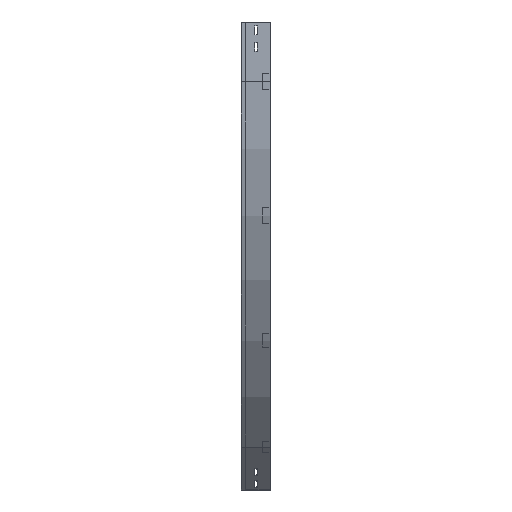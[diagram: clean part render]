
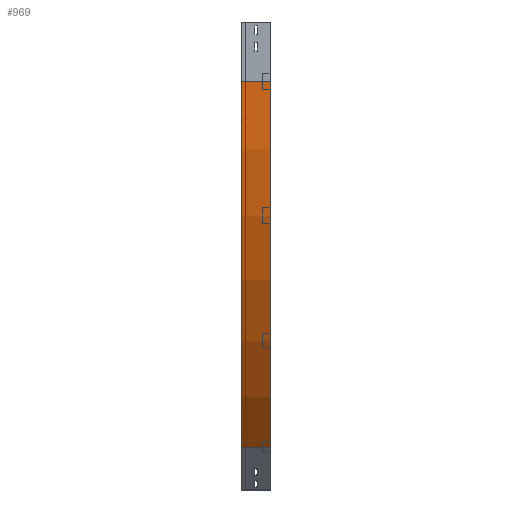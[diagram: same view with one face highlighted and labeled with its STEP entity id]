
A CAD part, left-side view. The second image highlights one B-rep face of the part: STEP entity #969.
In plain terms, the highlighted cylindrical face has radius 1300 mm (diameter 2600 mm), a partial arc.
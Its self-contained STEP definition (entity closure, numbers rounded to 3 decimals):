
#33 = ORIENTED_EDGE ( 'NONE', *, *, #1057, .T. ) ;
#102 = VECTOR ( 'NONE', #1130, 1000. ) ;
#109 = ORIENTED_EDGE ( 'NONE', *, *, #2064, .T. ) ;
#161 = CARTESIAN_POINT ( 'NONE',  ( 0., 75., -150. ) ) ;
#432 = DIRECTION ( 'NONE',  ( -1., 0., 0. ) ) ;
#456 = ORIENTED_EDGE ( 'NONE', *, *, #881, .F. ) ;
#692 = CARTESIAN_POINT ( 'NONE',  ( 380.761, 75., -1069.239 ) ) ;
#737 = DIRECTION ( 'NONE',  ( 0., -1., 0. ) ) ;
#881 = EDGE_CURVE ( 'NONE', #3323, #2697, #1700, .T. ) ;
#887 = CYLINDRICAL_SURFACE ( 'NONE', #1584, 1300. ) ;
#969 = ADVANCED_FACE ( 'NONE', ( #3570 ), #887, .T. ) ;
#1010 = AXIS2_PLACEMENT_3D ( 'NONE', #3412, #737, #432 ) ;
#1057 = EDGE_CURVE ( 'NONE', #3323, #2903, #2175, .T. ) ;
#1061 = DIRECTION ( 'NONE',  ( 0., -1., 0. ) ) ;
#1068 = EDGE_CURVE ( 'NONE', #2697, #3725, #3195, .T. ) ;
#1130 = DIRECTION ( 'NONE',  ( 0., -1., 0. ) ) ;
#1418 = CARTESIAN_POINT ( 'NONE',  ( 0., 0., -150. ) ) ;
#1584 = AXIS2_PLACEMENT_3D ( 'NONE', #2410, #3629, #2058 ) ;
#1641 = DIRECTION ( 'NONE',  ( 0., -1., 0. ) ) ;
#1700 = LINE ( 'NONE', #1418, #102 ) ;
#1843 = ORIENTED_EDGE ( 'NONE', *, *, #1068, .F. ) ;
#2058 = DIRECTION ( 'NONE',  ( 0., 0., -1. ) ) ;
#2064 = EDGE_CURVE ( 'NONE', #2903, #3725, #2938, .T. ) ;
#2175 = CIRCLE ( 'NONE', #1010, 1300. ) ;
#2179 = CARTESIAN_POINT ( 'NONE',  ( 1300., 0., -150. ) ) ;
#2410 = CARTESIAN_POINT ( 'NONE',  ( 1300., 0., -150. ) ) ;
#2484 = AXIS2_PLACEMENT_3D ( 'NONE', #2179, #1641, #2859 ) ;
#2697 = VERTEX_POINT ( 'NONE', #2812 ) ;
#2812 = CARTESIAN_POINT ( 'NONE',  ( 0., 0., -150. ) ) ;
#2859 = DIRECTION ( 'NONE',  ( -1., 0., 0. ) ) ;
#2903 = VERTEX_POINT ( 'NONE', #692 ) ;
#2938 = LINE ( 'NONE', #3482, #3243 ) ;
#3195 = CIRCLE ( 'NONE', #2484, 1300. ) ;
#3243 = VECTOR ( 'NONE', #1061, 1000. ) ;
#3278 = CARTESIAN_POINT ( 'NONE',  ( 380.761, 0., -1069.239 ) ) ;
#3323 = VERTEX_POINT ( 'NONE', #161 ) ;
#3392 = EDGE_LOOP ( 'NONE', ( #1843, #456, #33, #109 ) ) ;
#3412 = CARTESIAN_POINT ( 'NONE',  ( 1300., 75., -150. ) ) ;
#3482 = CARTESIAN_POINT ( 'NONE',  ( 380.761, 0., -1069.239 ) ) ;
#3570 = FACE_OUTER_BOUND ( 'NONE', #3392, .T. ) ;
#3629 = DIRECTION ( 'NONE',  ( 0., -1., 0. ) ) ;
#3725 = VERTEX_POINT ( 'NONE', #3278 ) ;
